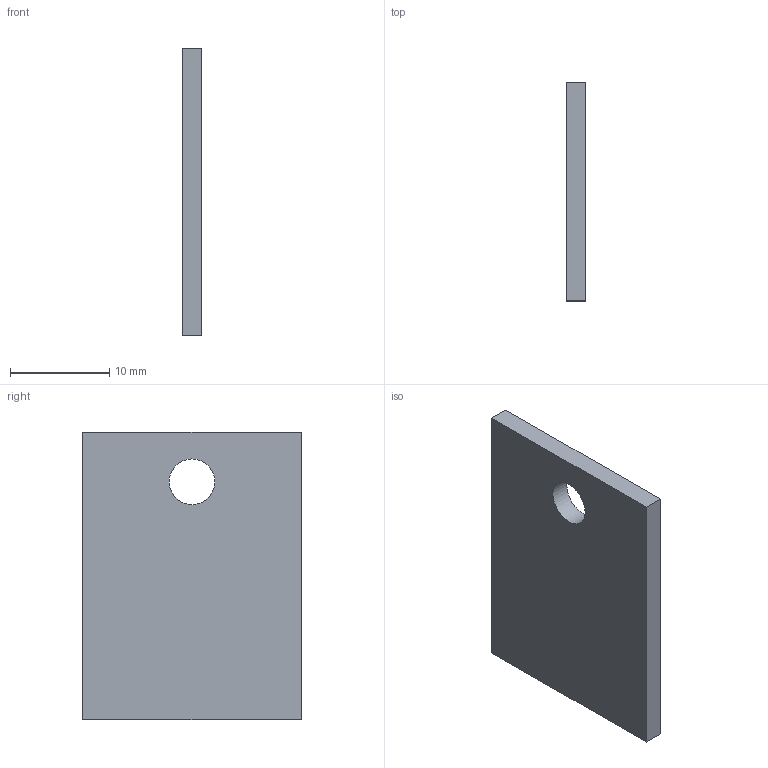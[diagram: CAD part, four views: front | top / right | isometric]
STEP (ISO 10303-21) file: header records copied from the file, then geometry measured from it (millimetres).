
FILE_DESCRIPTION(('Open CASCADE Model'),'2;1');
FILE_NAME('Open CASCADE Shape Model','2026-10-17T22:08:14',('Author'),( 'Open CASCADE'),'Open CASCADE STEP processor 7.9','Open CASCADE 7.9' ,'Unknown');
FILE_SCHEMA(('AUTOMOTIVE_DESIGN { 1 0 10303 214 1 1 1 1 }'));
Length unit declared in the file: millimetre
Products named in the file (1): Open CASCADE STEP translator 7.9 4
Bounding box: 2 x 22 x 29 mm (x, y, z)
Volume: 1242.8 mm3; surface area: 1475.7 mm2
Topology: 1 solids, 1 shells, 7 faces, 15 edges, 10 vertices
Faces by surface type: plane 6, cylinder 1
Full cylindrical faces by diameter (mm): 4.6 x1
Entity records: 406 total; most frequent: CARTESIAN_POINT 75, DIRECTION 61, LINE 41, VECTOR 41, ORIENTED_EDGE 30, PCURVE 30, DEFINITIONAL_REPRESENTATION 30, EDGE_CURVE 15
